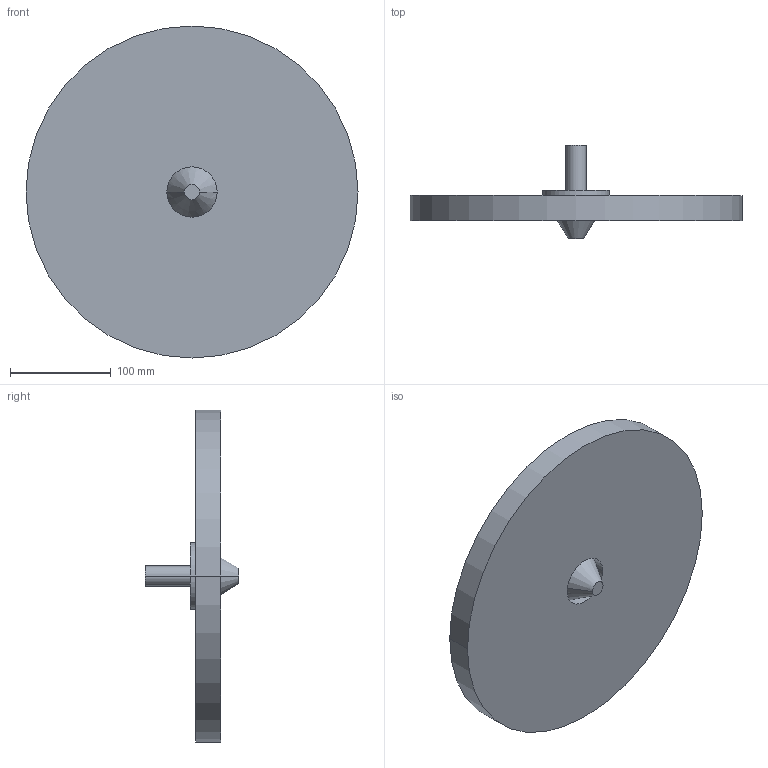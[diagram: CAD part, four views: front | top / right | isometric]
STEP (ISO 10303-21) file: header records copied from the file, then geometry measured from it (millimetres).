
FILE_DESCRIPTION (( 'STEP AP203' ), '1' );
FILE_NAME ('30330 geoeffnet.STEP', '2013-05-06T13:42:57', ( '' ), ( '' ), 'SwSTEP 2.0', 'SolidWorks 2011', '' );
FILE_SCHEMA (( 'CONFIG_CONTROL_DESIGN' ));
Length unit declared in the file: millimetre
Products named in the file (1): 30330 geoeffnet
Bounding box: 330 x 93 x 330 mm (x, y, z)
Volume: 2175327.8 mm3; surface area: 203997.3 mm2
Topology: 1 solids, 1 shells, 15 faces, 28 edges, 18 vertices
Faces by surface type: cylinder 8, plane 5, cone 2
Entity records: 461 total; most frequent: DIRECTION 78, CARTESIAN_POINT 62, ORIENTED_EDGE 56, AXIS2_PLACEMENT_3D 34, EDGE_CURVE 28, VERTEX_POINT 18, CIRCLE 18, EDGE_LOOP 18
